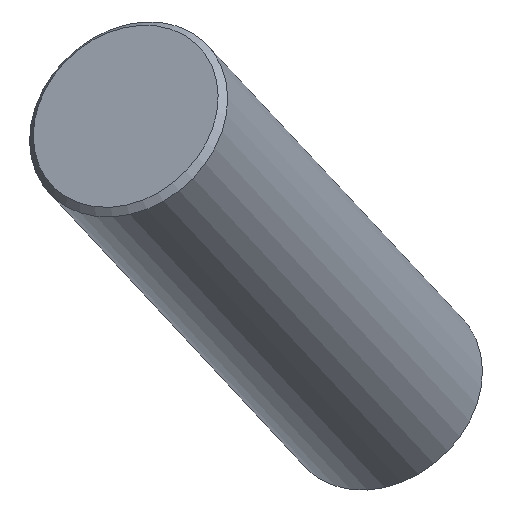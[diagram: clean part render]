
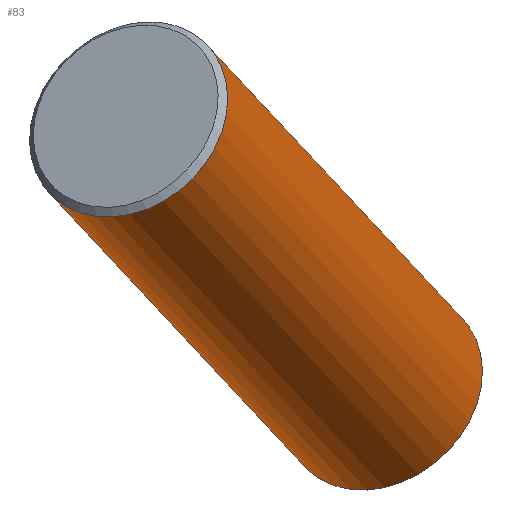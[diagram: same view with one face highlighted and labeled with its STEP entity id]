
A CAD part, isometric view. The second image highlights one B-rep face of the part: STEP entity #83.
In plain terms, the highlighted cylindrical face has radius 7.5 mm (diameter 15 mm), a full revolution.
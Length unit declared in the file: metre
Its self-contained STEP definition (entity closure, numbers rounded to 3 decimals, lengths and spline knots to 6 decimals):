
#18=ORIENTED_EDGE('',*,*,#32,.T.);
#19=ORIENTED_EDGE('',*,*,#33,.T.);
#32=EDGE_CURVE('',#39,#39,#46,.T.);
#33=EDGE_CURVE('',#40,#40,#47,.F.);
#39=VERTEX_POINT('',#154);
#40=VERTEX_POINT('',#156);
#46=CIRCLE('',#105,0.0075);
#47=CIRCLE('',#106,0.0075);
#53=EDGE_LOOP('',(#18));
#54=EDGE_LOOP('',(#19));
#67=FACE_BOUND('',#53,.T.);
#68=FACE_BOUND('',#54,.T.);
#81=CYLINDRICAL_SURFACE('',#104,0.0075);
#83=ADVANCED_FACE('',(#67,#68),#81,.T.);
#104=AXIS2_PLACEMENT_3D('',#152,#121,#122);
#105=AXIS2_PLACEMENT_3D('',#153,#123,#124);
#106=AXIS2_PLACEMENT_3D('',#155,#125,#126);
#121=DIRECTION('',(-0.574,0.,0.819));
#122=DIRECTION('',(0.819,0.,0.574));
#123=DIRECTION('',(-0.574,0.,0.819));
#124=DIRECTION('',(0.819,0.,0.574));
#125=DIRECTION('',(-0.574,0.,0.819));
#126=DIRECTION('',(0.819,0.,0.574));
#152=CARTESIAN_POINT('',(-0.012596,-0.0125,0.030492));
#153=CARTESIAN_POINT('',(-0.012883,-0.0125,0.030901));
#154=CARTESIAN_POINT('',(-0.006739,-0.0125,0.035203));
#155=CARTESIAN_POINT('',(-0.03782,-0.0125,0.066516));
#156=CARTESIAN_POINT('',(-0.031677,-0.0125,0.070818));
